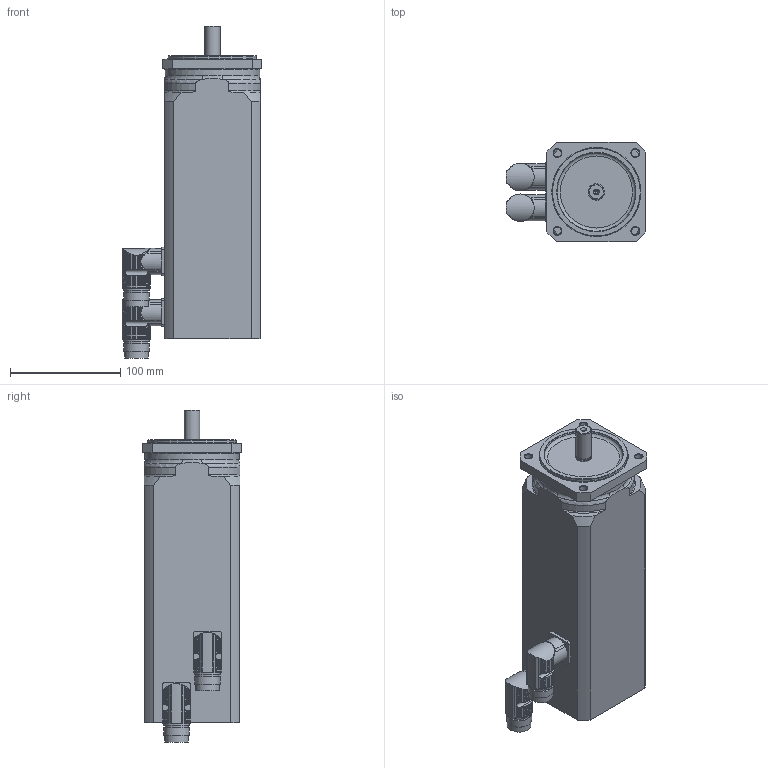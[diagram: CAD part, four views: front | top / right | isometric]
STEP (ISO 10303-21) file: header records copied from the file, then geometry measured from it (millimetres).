
FILE_DESCRIPTION(/* description */ (''),/* implementation_level */ '2;1');
FILE_NAME(/* name */ 'MR 7436-Ux-Nxxx-G##-A0D-M0',/* time_stamp */ '2007-07-13T09:50:00+01:00',/* author */ (''),/* organization */ ('ESR Pollmeier GmbH'),/* preprocessor_version */ 'ST-DEVELOPER v8',/* originating_system */ 'UNIGRAPHICS SOLUTIONS - UNIGRAPHICS 18.0',/* authorisation */ '');
FILE_SCHEMA (('AUTOMOTIVE_DESIGN { 1 2 10303 214 0 1 1 1 }'));
Length unit declared in the file: millimetre
Products named in the file (3): Winkelflanschdose_0; Rotor_SY3_0; MR7436-Ux-Nxxx-G##-A0D-M0_0
Assembly tree (3 placements, depth 2):
  MR7436-Ux-Nxxx-G##-A0D-M0_0
    Rotor_SY3_0
    Winkelflanschdose_0  x2
Bounding box: 126.99 x 90 x 301.65 mm (x, y, z)
Volume: 1934053.3 mm3; surface area: 119224.8 mm2
Topology: 4 solids, 4 shells, 409 faces, 1140 edges, 755 vertices
Faces by surface type: cylinder 307, plane 64, cone 17, torus 17, bspline 4
Full cylindrical faces by diameter (mm): 2.5 x1, 7 x4, 13.52 x1, 14 x1, 15 x1, 16 x2, 21 x2, 21.5 x2, 23 x4, 72 x1, 80 x1, 86 x1
Entity records: 8293 total; most frequent: CARTESIAN_POINT 2271, ORIENTED_EDGE 1262, DIRECTION 1180, EDGE_CURVE 631, AXIS2_PLACEMENT_3D 484, VERTEX_POINT 433, EDGE_LOOP 293, ADVANCED_FACE 245
